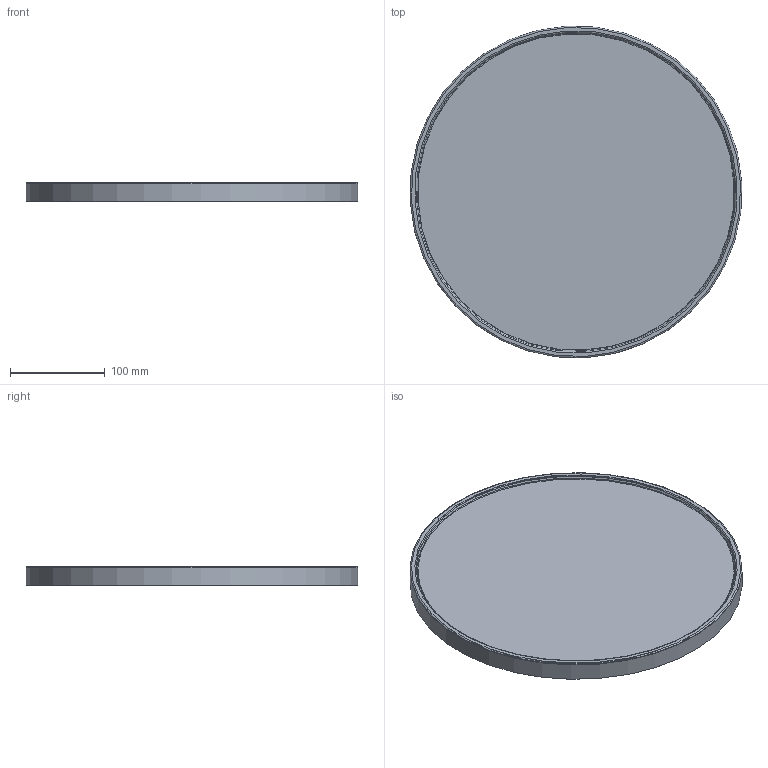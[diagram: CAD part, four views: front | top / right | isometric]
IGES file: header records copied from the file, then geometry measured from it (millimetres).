
Start section: SolidWorks IGES file using analytic representation for surfaces
Global section: file name: X:\PRODUKT\Modele 3D_WWW\_CAMELEON\PUSZKI WWW\CAMELEON-CANOPY-H-10275-10274\CAMELEON-CANOPY-H-10275-10274.IGS; native system: SolidWorks 2021; preprocessor: SolidWorks 2021; author: gabriela.tworek; date: 220823.095440; units: millimetre
Bounding box: 349.45 x 349.45 x 20 mm (x, y, z)
Surface area: 427311.4 mm2 (no closed solid volume)
Topology: 0 solids, 0 shells, 22 faces, 54 edges, 40 vertices
Faces by surface type: revolution 14, bspline 8
